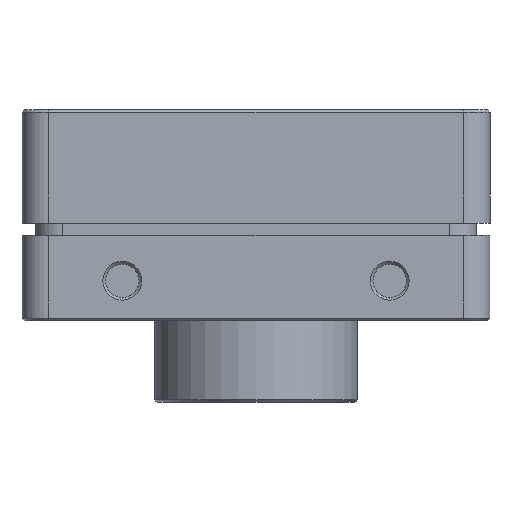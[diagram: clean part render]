
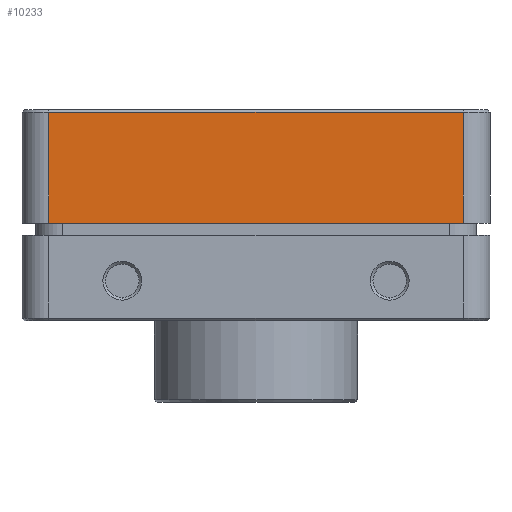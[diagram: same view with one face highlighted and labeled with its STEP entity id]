
A CAD part, front view. The second image highlights one B-rep face of the part: STEP entity #10233.
In plain terms, the highlighted planar face has unit normal (0, -1, 0).
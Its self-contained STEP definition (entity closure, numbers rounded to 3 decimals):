
#769 = DIRECTION ( 'NONE',  ( -1., 0., 0. ) ) ;
#1007 = EDGE_CURVE ( 'NONE', #3389, #29027, #5694, .T. ) ;
#2264 = CARTESIAN_POINT ( 'NONE',  ( -329.433, -61.969, 272.206 ) ) ;
#3323 = DIRECTION ( 'NONE',  ( 0., 1., 0. ) ) ;
#3389 = VERTEX_POINT ( 'NONE', #20389 ) ;
#3730 = VERTEX_POINT ( 'NONE', #14155 ) ;
#5694 = LINE ( 'NONE', #33676, #31101 ) ;
#8582 = LINE ( 'NONE', #2264, #27083 ) ;
#10233 = ADVANCED_FACE ( 'NONE', ( #15867 ), #34216, .F. ) ;
#11669 = LINE ( 'NONE', #31722, #28798 ) ;
#12117 = VERTEX_POINT ( 'NONE', #31552 ) ;
#14155 = CARTESIAN_POINT ( 'NONE',  ( -298.433, -61.969, 278.106 ) ) ;
#14665 = EDGE_CURVE ( 'NONE', #3730, #12117, #25480, .T. ) ;
#14713 = ORIENTED_EDGE ( 'NONE', *, *, #29550, .T. ) ;
#15867 = FACE_OUTER_BOUND ( 'NONE', #16238, .T. ) ;
#16238 = EDGE_LOOP ( 'NONE', ( #14713, #31658, #29458, #29606 ) ) ;
#16266 = DIRECTION ( 'NONE',  ( 0., 0., 1. ) ) ;
#18214 = DIRECTION ( 'NONE',  ( -1., 0., 0. ) ) ;
#18749 = CARTESIAN_POINT ( 'NONE',  ( -298.433, -61.969, 272.206 ) ) ;
#20389 = CARTESIAN_POINT ( 'NONE',  ( -298.433, -61.969, 269.806 ) ) ;
#20583 = VECTOR ( 'NONE', #769, 1000. ) ;
#20854 = CARTESIAN_POINT ( 'NONE',  ( -298.433, -61.969, 278.106 ) ) ;
#21258 = CARTESIAN_POINT ( 'NONE',  ( -329.433, -61.969, 269.806 ) ) ;
#22327 = DIRECTION ( 'NONE',  ( 0., 0., 1. ) ) ;
#22924 = AXIS2_PLACEMENT_3D ( 'NONE', #18749, #3323, #23325 ) ;
#23325 = DIRECTION ( 'NONE',  ( 0., 0., -1. ) ) ;
#23974 = EDGE_CURVE ( 'NONE', #29027, #12117, #8582, .T. ) ;
#25480 = LINE ( 'NONE', #20854, #20583 ) ;
#27083 = VECTOR ( 'NONE', #22327, 1000. ) ;
#28798 = VECTOR ( 'NONE', #16266, 1000. ) ;
#29027 = VERTEX_POINT ( 'NONE', #21258 ) ;
#29458 = ORIENTED_EDGE ( 'NONE', *, *, #23974, .F. ) ;
#29550 = EDGE_CURVE ( 'NONE', #3389, #3730, #11669, .T. ) ;
#29606 = ORIENTED_EDGE ( 'NONE', *, *, #1007, .F. ) ;
#31101 = VECTOR ( 'NONE', #18214, 1000. ) ;
#31552 = CARTESIAN_POINT ( 'NONE',  ( -329.433, -61.969, 278.106 ) ) ;
#31658 = ORIENTED_EDGE ( 'NONE', *, *, #14665, .T. ) ;
#31722 = CARTESIAN_POINT ( 'NONE',  ( -298.433, -61.969, 272.206 ) ) ;
#33676 = CARTESIAN_POINT ( 'NONE',  ( -298.433, -61.969, 269.806 ) ) ;
#34216 = PLANE ( 'NONE',  #22924 ) ;
